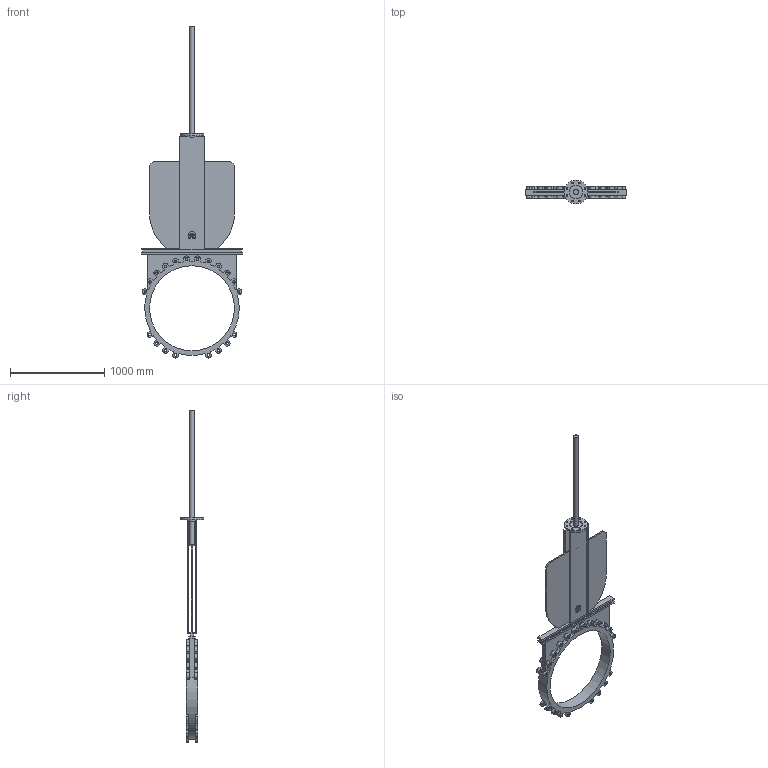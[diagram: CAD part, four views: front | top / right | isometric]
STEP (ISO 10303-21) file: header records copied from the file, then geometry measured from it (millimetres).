
FILE_DESCRIPTION(('STEP AP203'), '1');
FILE_NAME('K51GVA_DN900', '', ('UNSPECIFIED'), ('UNSPECIFIED'), 'ASCON STEP Converter 1.6', 'ASCON Math Kernel', '');
FILE_SCHEMA(('CONFIG_CONTROL_DESIGN'));
Length unit declared in the file: millimetre
Bounding box: 1075 x 250 x 3519.95 mm (x, y, z)
Volume: 50104581.5 mm3; surface area: 5488963.3 mm2
Topology: 1 solids, 1 shells, 408 faces, 1165 edges, 767 vertices
Faces by surface type: plane 199, cylinder 184, cone 25
Full cylindrical faces by diameter (mm): 18 x8, 26.211 x40, 52 x2, 80 x1, 140 x1, 250 x1, 900 x1, 1001 x1
Entity records: 16236 total; most frequent: DIRECTION 2342, CARTESIAN_POINT 2213, ORIENTED_EDGE 2122, EDGE_CURVE 1061, AXIS2_PLACEMENT_3D 872, VERTEX_POINT 743, LINE 598, VECTOR 598
